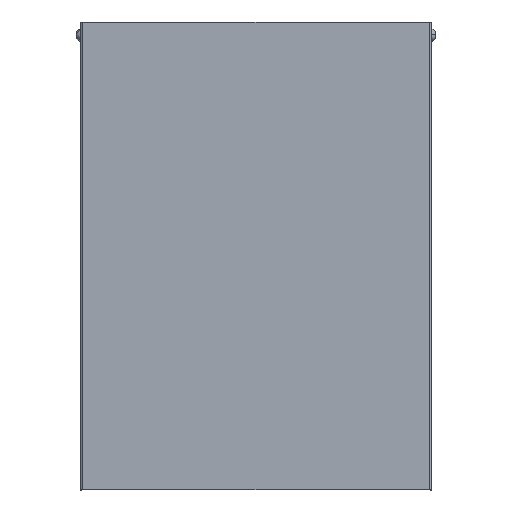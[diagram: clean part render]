
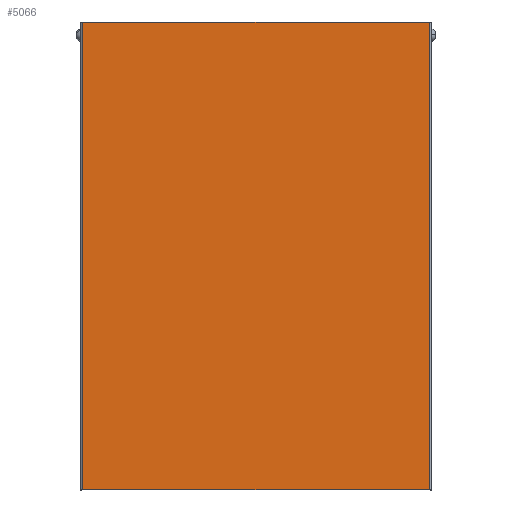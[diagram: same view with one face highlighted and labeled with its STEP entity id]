
A CAD part, top view. The second image highlights one B-rep face of the part: STEP entity #5066.
In plain terms, the highlighted planar face has unit normal (0, 0, 1) as drawn and (0, 0, -1) by its records, which use the part's own axes.
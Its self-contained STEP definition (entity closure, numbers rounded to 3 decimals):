
#346 = CARTESIAN_POINT ( 'NONE',  ( 148., -200., -1. ) ) ;
#446 = DIRECTION ( 'NONE',  ( 0., 0., 1. ) ) ;
#452 = ORIENTED_EDGE ( 'NONE', *, *, #3602, .F. ) ;
#849 = LINE ( 'NONE', #2923, #5525 ) ;
#1265 = DIRECTION ( 'NONE',  ( 1., 0., 0. ) ) ;
#1272 = VECTOR ( 'NONE', #4329, 1000. ) ;
#1686 = EDGE_LOOP ( 'NONE', ( #6175, #452, #3249, #3906 ) ) ;
#1769 = CARTESIAN_POINT ( 'NONE',  ( 150., -200., -1. ) ) ;
#1815 = EDGE_CURVE ( 'NONE', #5930, #3458, #6341, .T. ) ;
#1931 = DIRECTION ( 'NONE',  ( 1., 0., 0. ) ) ;
#2655 = CARTESIAN_POINT ( 'NONE',  ( -148., -200., -1. ) ) ;
#2736 = EDGE_CURVE ( 'NONE', #4810, #3458, #849, .T. ) ;
#2909 = FACE_OUTER_BOUND ( 'NONE', #1686, .T. ) ;
#2923 = CARTESIAN_POINT ( 'NONE',  ( -148., -200., -1. ) ) ;
#2987 = CARTESIAN_POINT ( 'NONE',  ( 148., 200., -1. ) ) ;
#3219 = LINE ( 'NONE', #4587, #4338 ) ;
#3249 = ORIENTED_EDGE ( 'NONE', *, *, #2736, .T. ) ;
#3458 = VERTEX_POINT ( 'NONE', #5856 ) ;
#3602 = EDGE_CURVE ( 'NONE', #4810, #4994, #5320, .T. ) ;
#3836 = PLANE ( 'NONE',  #5078 ) ;
#3906 = ORIENTED_EDGE ( 'NONE', *, *, #1815, .F. ) ;
#4329 = DIRECTION ( 'NONE',  ( -1., 0., 0. ) ) ;
#4338 = VECTOR ( 'NONE', #5770, 1000. ) ;
#4587 = CARTESIAN_POINT ( 'NONE',  ( 148., 200., -1. ) ) ;
#4810 = VERTEX_POINT ( 'NONE', #2655 ) ;
#4877 = CARTESIAN_POINT ( 'NONE',  ( 0., 0., -1. ) ) ;
#4890 = DIRECTION ( 'NONE',  ( 0., 1., 0. ) ) ;
#4912 = CARTESIAN_POINT ( 'NONE',  ( 150., 200., -1. ) ) ;
#4994 = VERTEX_POINT ( 'NONE', #346 ) ;
#5066 = ADVANCED_FACE ( 'NONE', ( #2909 ), #3836, .F. ) ;
#5078 = AXIS2_PLACEMENT_3D ( 'NONE', #4877, #446, #1931 ) ;
#5320 = LINE ( 'NONE', #1769, #6394 ) ;
#5525 = VECTOR ( 'NONE', #4890, 1000. ) ;
#5770 = DIRECTION ( 'NONE',  ( 0., -1., 0. ) ) ;
#5856 = CARTESIAN_POINT ( 'NONE',  ( -148., 200., -1. ) ) ;
#5930 = VERTEX_POINT ( 'NONE', #2987 ) ;
#6175 = ORIENTED_EDGE ( 'NONE', *, *, #6332, .T. ) ;
#6332 = EDGE_CURVE ( 'NONE', #5930, #4994, #3219, .T. ) ;
#6341 = LINE ( 'NONE', #4912, #1272 ) ;
#6394 = VECTOR ( 'NONE', #1265, 1000. ) ;
